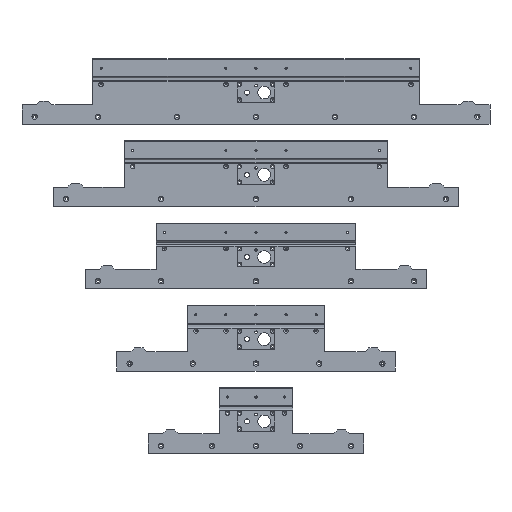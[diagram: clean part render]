
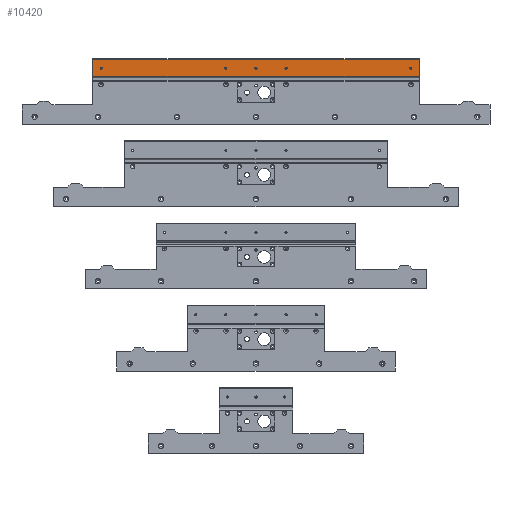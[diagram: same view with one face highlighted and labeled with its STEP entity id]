
A CAD part, top view. The second image highlights one B-rep face of the part: STEP entity #10420.
In plain terms, the highlighted planar face has unit normal (0, 0, 1).
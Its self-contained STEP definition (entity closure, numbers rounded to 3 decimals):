
#596=FACE_BOUND('',#2302,.T.);
#597=FACE_BOUND('',#2303,.T.);
#598=FACE_BOUND('',#2304,.T.);
#599=FACE_BOUND('',#2305,.T.);
#600=FACE_BOUND('',#2306,.T.);
#981=CIRCLE('',#11378,1.65);
#989=CIRCLE('',#11389,1.65);
#991=CIRCLE('',#11392,1.65);
#997=CIRCLE('',#11406,1.65);
#1005=CIRCLE('',#11427,1.65);
#1516=FACE_OUTER_BOUND('',#2301,.T.);
#2301=EDGE_LOOP('',(#9576,#9577,#9578,#9579,#9580,#9581,#9582,#9583));
#2302=EDGE_LOOP('',(#9584));
#2303=EDGE_LOOP('',(#9585));
#2304=EDGE_LOOP('',(#9586));
#2305=EDGE_LOOP('',(#9587));
#2306=EDGE_LOOP('',(#9588));
#3289=LINE('',#17142,#4321);
#3317=LINE('',#17201,#4349);
#3319=LINE('',#17204,#4351);
#3320=LINE('',#17205,#4352);
#3321=LINE('',#17208,#4353);
#3336=LINE('',#17238,#4368);
#3337=LINE('',#17240,#4369);
#3338=LINE('',#17241,#4370);
#4321=VECTOR('',#14248,10.);
#4349=VECTOR('',#14294,10.);
#4351=VECTOR('',#14296,10.);
#4352=VECTOR('',#14297,10.);
#4353=VECTOR('',#14300,10.);
#4368=VECTOR('',#14323,10.);
#4369=VECTOR('',#14324,10.);
#4370=VECTOR('',#14325,10.);
#5239=VERTEX_POINT('',#17051);
#5247=VERTEX_POINT('',#17073);
#5249=VERTEX_POINT('',#17079);
#5256=VERTEX_POINT('',#17109);
#5268=VERTEX_POINT('',#17139);
#5269=VERTEX_POINT('',#17141);
#5290=VERTEX_POINT('',#17199);
#5291=VERTEX_POINT('',#17200);
#5292=VERTEX_POINT('',#17203);
#5293=VERTEX_POINT('',#17207);
#5304=VERTEX_POINT('',#17237);
#5305=VERTEX_POINT('',#17239);
#5306=VERTEX_POINT('',#17242);
#6642=EDGE_CURVE('',#5239,#5239,#981,.T.);
#6653=EDGE_CURVE('',#5247,#5247,#989,.T.);
#6656=EDGE_CURVE('',#5249,#5249,#991,.T.);
#6671=EDGE_CURVE('',#5256,#5256,#997,.T.);
#6686=EDGE_CURVE('',#5269,#5268,#3289,.T.);
#6717=EDGE_CURVE('',#5290,#5291,#3317,.T.);
#6719=EDGE_CURVE('',#5292,#5269,#3319,.T.);
#6720=EDGE_CURVE('',#5291,#5292,#3320,.T.);
#6721=EDGE_CURVE('',#5293,#5290,#3321,.T.);
#6737=EDGE_CURVE('',#5293,#5304,#3336,.T.);
#6738=EDGE_CURVE('',#5305,#5268,#3337,.T.);
#6739=EDGE_CURVE('',#5304,#5305,#3338,.T.);
#6740=EDGE_CURVE('',#5306,#5306,#1005,.T.);
#9576=ORIENTED_EDGE('',*,*,#6737,.F.);
#9577=ORIENTED_EDGE('',*,*,#6721,.T.);
#9578=ORIENTED_EDGE('',*,*,#6717,.T.);
#9579=ORIENTED_EDGE('',*,*,#6720,.T.);
#9580=ORIENTED_EDGE('',*,*,#6719,.T.);
#9581=ORIENTED_EDGE('',*,*,#6686,.T.);
#9582=ORIENTED_EDGE('',*,*,#6738,.F.);
#9583=ORIENTED_EDGE('',*,*,#6739,.F.);
#9584=ORIENTED_EDGE('',*,*,#6656,.F.);
#9585=ORIENTED_EDGE('',*,*,#6653,.F.);
#9586=ORIENTED_EDGE('',*,*,#6642,.F.);
#9587=ORIENTED_EDGE('',*,*,#6671,.F.);
#9588=ORIENTED_EDGE('',*,*,#6740,.F.);
#9906=PLANE('',#11426);
#10420=ADVANCED_FACE('',(#1516,#596,#597,#598,#599,#600),#9906,.F.);
#11378=AXIS2_PLACEMENT_3D('',#17053,#14154,#14155);
#11389=AXIS2_PLACEMENT_3D('',#17075,#14179,#14180);
#11392=AXIS2_PLACEMENT_3D('',#17081,#14186,#14187);
#11406=AXIS2_PLACEMENT_3D('',#17111,#14223,#14224);
#11426=AXIS2_PLACEMENT_3D('',#17236,#14321,#14322);
#11427=AXIS2_PLACEMENT_3D('',#17243,#14326,#14327);
#14154=DIRECTION('center_axis',(0.,0.,
1.));
#14155=DIRECTION('ref_axis',(1.,0.,0.));
#14179=DIRECTION('center_axis',(0.,0.,
1.));
#14180=DIRECTION('ref_axis',(1.,0.,0.));
#14186=DIRECTION('center_axis',(0.,0.,
1.));
#14187=DIRECTION('ref_axis',(1.,0.,0.));
#14223=DIRECTION('center_axis',(0.,0.,
1.));
#14224=DIRECTION('ref_axis',(1.,0.,0.));
#14248=DIRECTION('',(0.,-1.,0.));
#14294=DIRECTION('',(-1.,0.,0.));
#14296=DIRECTION('',(-1.,0.,0.));
#14297=DIRECTION('',(-1.,0.,0.));
#14300=DIRECTION('',(0.,1.,0.));
#14321=DIRECTION('center_axis',(0.,0.,
-1.));
#14322=DIRECTION('ref_axis',(1.,0.,0.));
#14323=DIRECTION('',(-1.,0.,0.));
#14324=DIRECTION('',(-1.,0.,0.));
#14325=DIRECTION('',(-1.,0.,0.));
#14326=DIRECTION('center_axis',(0.,0.,
1.));
#14327=DIRECTION('ref_axis',(1.,0.,0.));
#17051=CARTESIAN_POINT('',(-1.65,267.5,480.));
#17053=CARTESIAN_POINT('Origin',(0.,267.5,
480.));
#17073=CARTESIAN_POINT('',(45.85,267.5,480.));
#17075=CARTESIAN_POINT('Origin',(47.5,267.5,480.));
#17079=CARTESIAN_POINT('',(-49.15,267.5,480.));
#17081=CARTESIAN_POINT('Origin',(-47.5,267.5,480.));
#17109=CARTESIAN_POINT('',(-246.65,267.5,480.));
#17111=CARTESIAN_POINT('Origin',(-245.,267.5,480.));
#17139=CARTESIAN_POINT('',(-257.895,254.539,480.));
#17141=CARTESIAN_POINT('',(-257.895,281.5,480.));
#17142=CARTESIAN_POINT('',(-257.895,246.,480.));
#17199=CARTESIAN_POINT('',(257.895,281.5,480.));
#17200=CARTESIAN_POINT('',(67.895,281.5,480.));
#17201=CARTESIAN_POINT('',(180.,281.5,480.));
#17203=CARTESIAN_POINT('',(-67.895,281.5,480.));
#17204=CARTESIAN_POINT('',(-120.,281.5,480.));
#17205=CARTESIAN_POINT('',(30.,281.5,480.));
#17207=CARTESIAN_POINT('',(257.895,254.539,480.));
#17208=CARTESIAN_POINT('',(257.895,246.,480.));
#17236=CARTESIAN_POINT('Origin',(150.,212.25,480.));
#17237=CARTESIAN_POINT('',(67.895,254.539,480.));
#17238=CARTESIAN_POINT('',(180.,254.539,480.));
#17239=CARTESIAN_POINT('',(-67.895,254.539,480.));
#17240=CARTESIAN_POINT('',(-120.,254.539,480.));
#17241=CARTESIAN_POINT('',(30.,254.539,480.));
#17242=CARTESIAN_POINT('',(243.35,267.5,480.));
#17243=CARTESIAN_POINT('Origin',(245.,267.5,480.));
